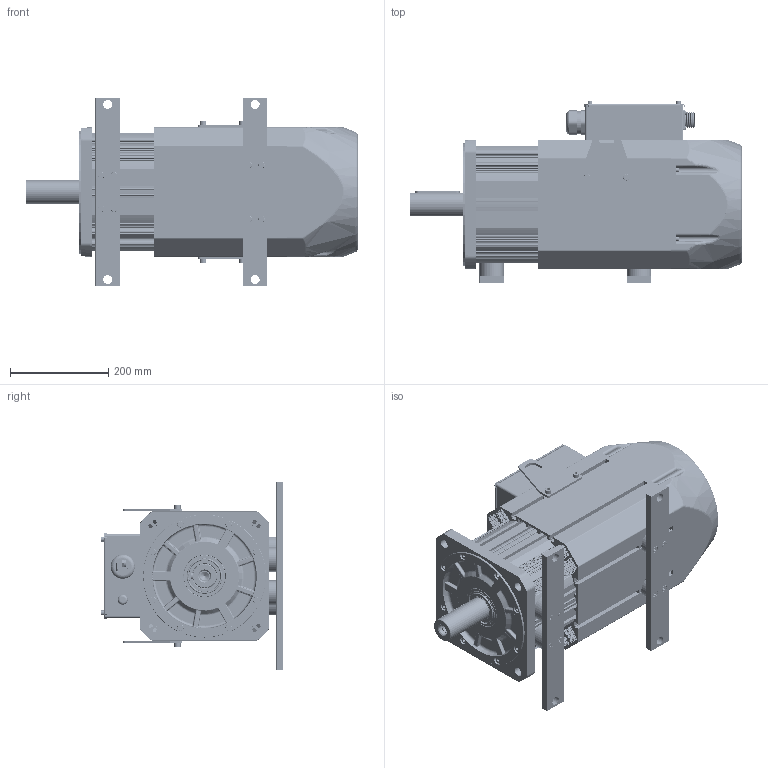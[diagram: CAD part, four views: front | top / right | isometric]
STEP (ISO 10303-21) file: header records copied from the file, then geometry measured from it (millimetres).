
FILE_DESCRIPTION((''),'2;1');
FILE_NAME('IMS20B-26M74D20C-4-R7F-A_ASM','2025-08-25T10:08:05',('0108698'),(''),'CREO PARAMETRIC BY PTC INC, 2019080','CREO PARAMETRIC BY PTC INC, 2019080','');
FILE_SCHEMA(('CONFIG_CONTROL_DESIGN'));
Products named in the file (72): 263T360_A; 631000; 80100320_AF0; 2630002_ASM; 2630003; 2630004; M6X160001; 50058-00152_AF0; 2630001_ASM; 263559_A; 2630005_ASM; 80100323_AF0; 263000_ASM; 50057-00008; 50036-00052; 50060-00059; 2630007_ASM; 2630009; 15000; 2630008_ASM; 50034-00098; _0001; 0001; 50051-00002; PDLD_4X12; 2630011; 00; M8X3000; 800; 0003; 0004; L990001; 2630010_ASM; 0005; ISO7045-M4X6-4_8; 0006; ISO7045-M4X8-4_8; WXJXDZ_40200-01002; 0007; _0002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
Assembly tree (142 placements, depth 4):
  IMS20B-26M74D20C-4-R7F-A_ASM
    2630001_ASM
      263T360_A
      631000
      2630002_ASM
        80100320_AF0
      2630003
      2630004
      M6X160001  x6
      50058-00152_AF0
    2630005_ASM
      263559_A
    263000_ASM
      80100323_AF0
    2630007_ASM
      50057-00008
      50036-00052
      50060-00059  x4
    2630008_ASM
      2630009
      15000
    50034-00098
    12116-00061_ASM
      _0001
      0001
      50051-00002
      PDLD_4X12  x4
      2630010_ASM
        2630011
        00  x3
        M8X3000  x6
        800  x6
        800  x6
        0003  x4
        0004
        L990001
      0005
      ISO7045-M4X6-4_8  x2
      0006
      ISO7045-M4X8-4_8
      WXJXDZ_40200-01002  x4
      0007
      _0002
      50060-00134  x4
      0008
      PG11
      PG36
    50034-00031  x2
    50034-00026  x2
    50058-00151_AF0
    50060-00071  x4
    50058-00152_AF1
    50060-00135  x4
    50058-00150
    50066-00059
    50060-00076  x4
    12118-00004_ASM
      80310919
      50034-00012
      80310916  x2
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Bounding box: 675 x 371 x 384 mm (x, y, z)
Volume: 14132990.7 mm3; surface area: 3368549.9 mm2
Topology: 148 solids, 260 shells, 7714 faces, 20132 edges, 13031 vertices
Faces by surface type: plane 3573, cylinder 2778, cone 505, bspline 481, torus 329, revolution 24, sphere 24
Entity records: 228594 total; most frequent: CARTESIAN_POINT 70691, DIRECTION 33163, ORIENTED_EDGE 32704, EDGE_CURVE 16484, AXIS2_PLACEMENT_3D 11953, VERTEX_POINT 10717, VECTOR 9233, LINE 9233
